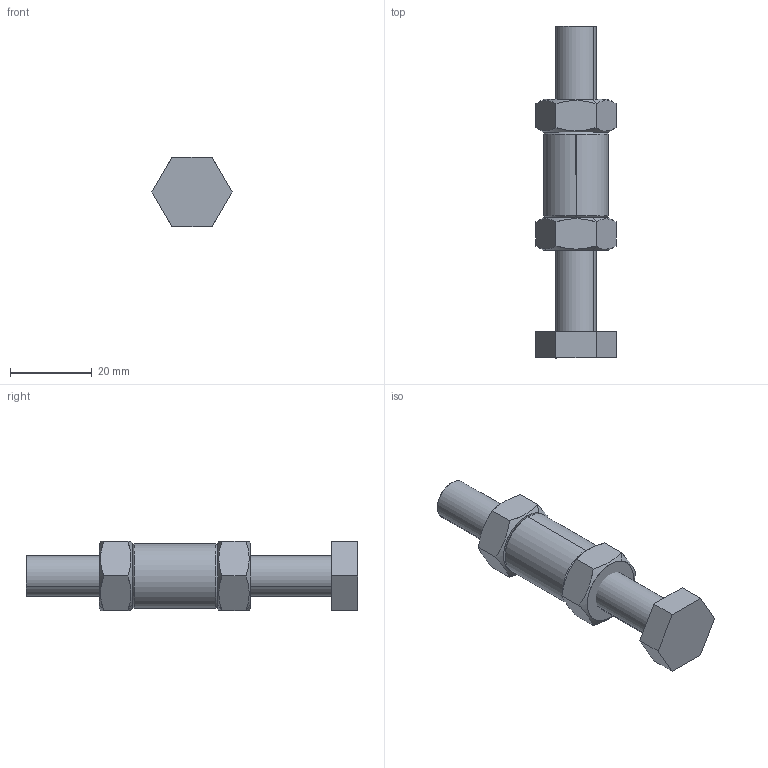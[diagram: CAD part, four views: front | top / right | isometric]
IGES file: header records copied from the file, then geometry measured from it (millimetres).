
Start section: SolidWorks IGES file using analytic representation for surfaces
Global section: file name: C:\Projetos\Ponteiras\PSB\PSB-M10.IGS; native system: SolidWorks 2011; preprocessor: SolidWorks 2011; author: Usuario; date: 110520.163925; units: millimetre
Bounding box: 19.63 x 81.4 x 17 mm (x, y, z)
Surface area: 7171.4 mm2 (no closed solid volume)
Topology: 0 solids, 0 shells, 61 faces, 996 edges, 996 vertices
Faces by surface type: revolution 34, bspline 27
